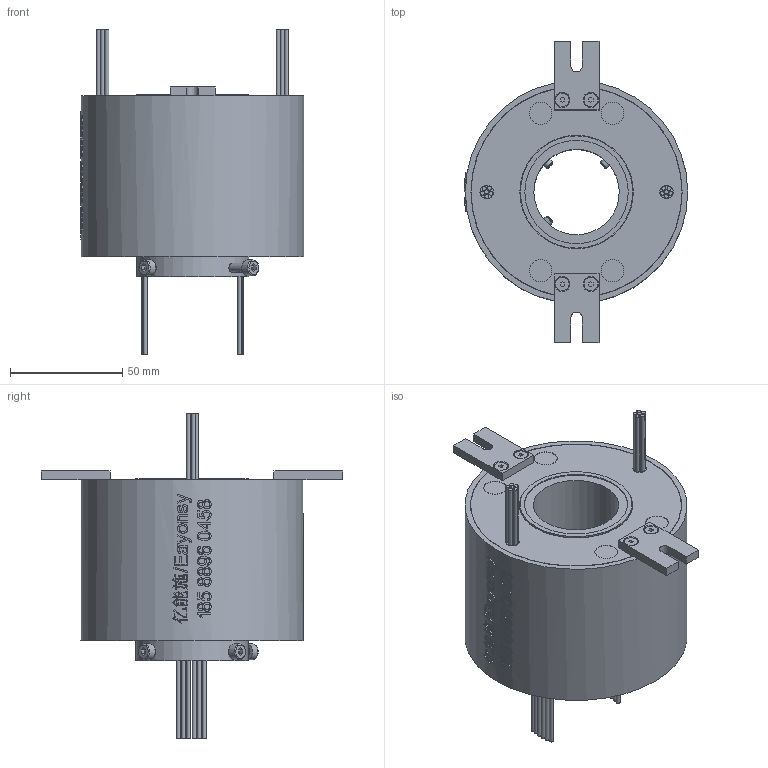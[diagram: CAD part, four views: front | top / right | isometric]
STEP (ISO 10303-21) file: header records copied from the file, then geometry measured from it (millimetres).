
FILE_DESCRIPTION(/* description */ (''),/* implementation_level */ '2;1');
FILE_NAME(/* name */ 'YD3899-1210-3D模型.stp',/* time_stamp */ '2025-09-04T08:49:28+08:00',/* author */ (''),/* organization */ (''),/* preprocessor_version */ 'ST-DEVELOPER v16.7',/* originating_system */ 'SIEMENS PLM Software NX 12.0',/* authorisation */ '');
FILE_SCHEMA (('AUTOMOTIVE_DESIGN { 1 0 10303 214 3 1 1 1 }'));
Length unit declared in the file: millimetre
Products named in the file (1): Admi3138F06C1fev
Bounding box: 99.5 x 134 x 145.1 mm (x, y, z)
Volume: 483960.2 mm3; surface area: 54921 mm2
Topology: 1 solids, 1 shells, 949 faces, 2500 edges, 1664 vertices
Faces by surface type: extrusion 452, plane 367, cylinder 85, bspline 33, cone 8, torus 4
Full cylindrical faces by diameter (mm): 1.8 x24, 3.4 x1, 4 x7, 6 x6, 7 x4, 10 x4, 38 x1, 46 x1, 50 x2, 50.5 x2, 93.9 x2, 94 x2, 99 x1
Entity records: 36974 total; most frequent: CARTESIAN_POINT 17101, ORIENTED_EDGE 4824, EDGE_CURVE 2412, DIRECTION 2346, B_SPLINE_CURVE_WITH_KNOTS 2203, VERTEX_POINT 1645, EDGE_LOOP 1135, ADVANCED_FACE 949
